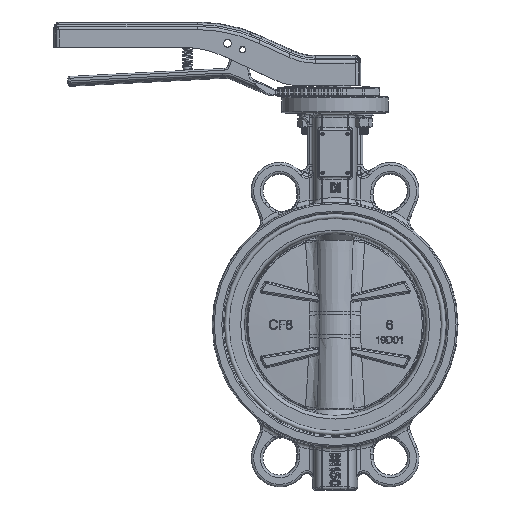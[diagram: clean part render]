
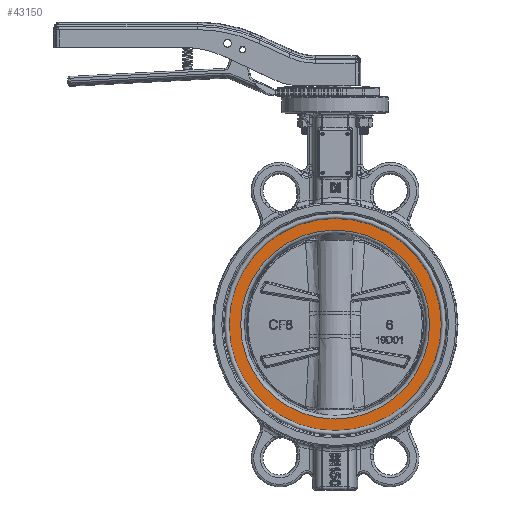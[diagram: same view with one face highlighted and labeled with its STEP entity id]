
A CAD part, top view. The second image highlights one B-rep face of the part: STEP entity #43150.
In plain terms, the highlighted planar face has unit normal (0, 0, 1) as drawn and (1, 0, 0) by its records, which use the part's own axes.
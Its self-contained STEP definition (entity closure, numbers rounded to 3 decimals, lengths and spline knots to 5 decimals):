
#2160=PLANE('',#47497);
#2360=FACE_BOUND('',#15338,.T.);
#9602=CIRCLE('',#47495,0.08165);
#9604=CIRCLE('',#47498,0.09175);
#12583=FACE_OUTER_BOUND('',#15337,.T.);
#15337=EDGE_LOOP('',(#37749));
#15338=EDGE_LOOP('',(#37750));
#20533=VERTEX_POINT('',#111015);
#20534=VERTEX_POINT('',#111019);
#26402=EDGE_CURVE('',#20533,#20533,#9602,.T.);
#26404=EDGE_CURVE('',#20534,#20534,#9604,.T.);
#37749=ORIENTED_EDGE('',*,*,#26404,.F.);
#37750=ORIENTED_EDGE('',*,*,#26402,.T.);
#43150=ADVANCED_FACE('',(#12583,#2360),#2160,.F.);
#47495=AXIS2_PLACEMENT_3D('',#111016,#57093,#57094);
#47497=AXIS2_PLACEMENT_3D('',#111018,#57097,#57098);
#47498=AXIS2_PLACEMENT_3D('',#111020,#57099,#57100);
#57093=DIRECTION('center_axis',(-1.,0.,0.));
#57094=DIRECTION('ref_axis',(0.,0.,1.));
#57097=DIRECTION('center_axis',(-1.,0.,0.));
#57098=DIRECTION('ref_axis',(0.,0.,1.));
#57099=DIRECTION('center_axis',(-1.,0.,0.));
#57100=DIRECTION('ref_axis',(0.,0.,1.));
#111015=CARTESIAN_POINT('',(0.028,0.,-0.08165));
#111016=CARTESIAN_POINT('Origin',(0.028,0.,0.));
#111018=CARTESIAN_POINT('Origin',(0.028,0.08165,0.));
#111019=CARTESIAN_POINT('',(0.028,0.,-0.09175));
#111020=CARTESIAN_POINT('Origin',(0.028,0.,0.));
